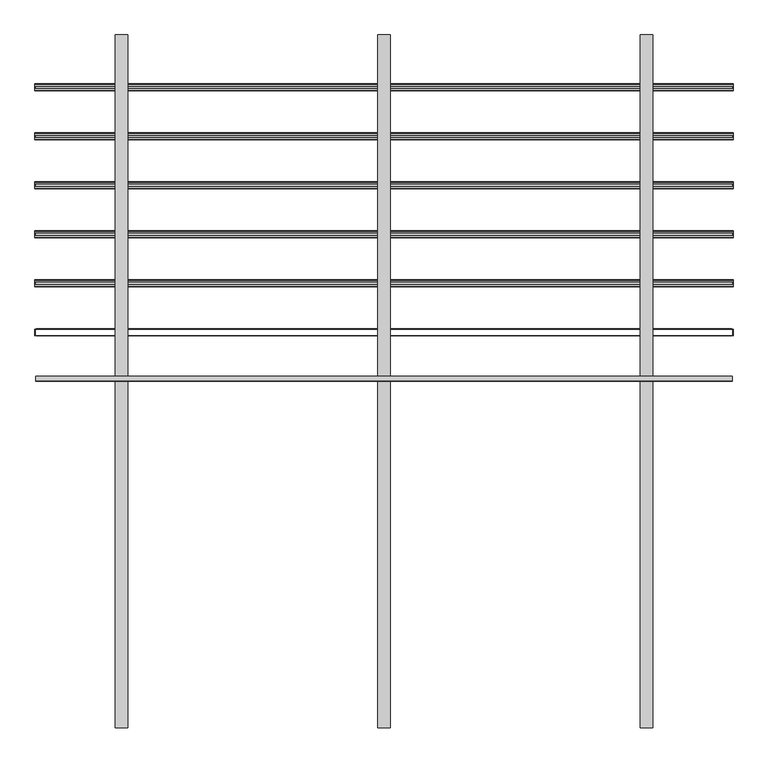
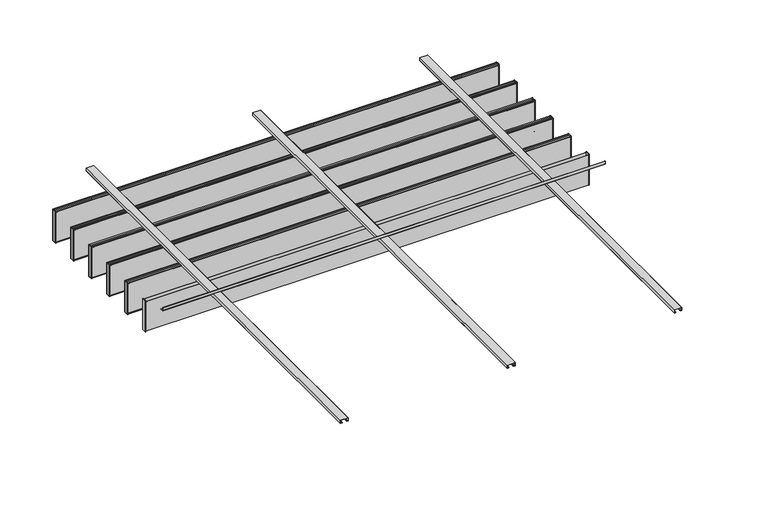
"""IFC4 building model written with IfcOpenShell, lengths in millimetres: proxy geometry, durlum_POLYLAM_KS : durlum_POLYLAM-KS/-S 40."""

from ifc_helpers import new_model, si_unit, point, frame, frame_2d, origin, place, context, project, spatial, polyline, circle_curve, trimmed, segment, composite_curve, outline, extrude, source, transform, mapped, element, save
from ifc_brep_helpers import plane_surface, cylinder_surface, advanced_brep


def generic_models_0fbfe230(model_context):
    return source(origin(), model_context, "Body", "SolidModel", [
        extrude(outline(polyline([(2027.0, 20.5), (2020.0, 20.5), (2020.0, 35.0), (2050.0, 35.0), (2050.0, -35.0), (2020.0, -35.0), (2020.0, -20.5), (2027.0, -20.5), (2027.0, -22.0), (2021.5, -22.0), (2021.5, -33.5), (2048.5, -33.5), (2048.5, 33.5), (2021.5, 33.5), (2021.5, 22.0), (2027.0, 22.0), (2027.0, 20.5)])), frame((0.0, -1980.0, 0.0), z_axis=(0.0, 1.0, 0.0), x_axis=(0.0, 0.0, 1.0)), (0.0, 0.0, 1.0), 3960.0),
        extrude(outline(polyline([(2027.0, -1479.5), (2020.0, -1479.5), (2020.0, -1465.0), (2050.0, -1465.0), (2050.0, -1535.0), (2020.0, -1535.0), (2020.0, -1520.5), (2027.0, -1520.5), (2027.0, -1522.0), (2021.5, -1522.0), (2021.5, -1533.5), (2048.5, -1533.5), (2048.5, -1466.5), (2021.5, -1466.5), (2021.5, -1478.0), (2027.0, -1478.0), (2027.0, -1479.5)])), frame((0.0, -1980.0, 0.0), z_axis=(0.0, 1.0, 0.0), x_axis=(0.0, 0.0, 1.0)), (0.0, 0.0, 1.0), 3960.0),
        extrude(outline(polyline([(2027.0, 1520.5), (2020.0, 1520.5), (2020.0, 1535.0), (2050.0, 1535.0), (2050.0, 1465.0), (2020.0, 1465.0), (2020.0, 1479.5), (2027.0, 1479.5), (2027.0, 1478.0), (2021.5, 1478.0), (2021.5, 1466.5), (2048.5, 1466.5), (2048.5, 1533.5), (2021.5, 1533.5), (2021.5, 1522.0), (2027.0, 1522.0), (2027.0, 1520.5)])), frame((0.0, -1980.0, 0.0), z_axis=(0.0, 1.0, 0.0), x_axis=(0.0, 0.0, 1.0)), (0.0, 0.0, 1.0), 3960.0),
        extrude(outline(composite_curve([segment(polyline([(2.0, 2079.9), (2.0, 2054.0)]), True, "CONTINUOUS"), segment(trimmed(circle_curve(frame_2d((4.0, 2054.0)), 2.0), [point((2.0, 2054.0))], [point((4.0, 2052.0))], True, "CARTESIAN"), True, "CONTINUOUS"), segment(polyline([(4.0, 2052.0), (29.9, 2052.0), (29.9, 2050.0), (4.0, 2050.0)]), True, "CONTINUOUS"), segment(trimmed(circle_curve(frame_2d((4.0, 2054.0)), 4.0), [point((4.0, 2050.0))], [point((0.0, 2054.0))], False, "CARTESIAN"), True, "CONTINUOUS"), segment(polyline([(0.0, 2054.0), (0.0, 2079.9), (2.0, 2079.9)]), True, "CONTINUOUS")], self_intersect=False)), frame((-1990.0, 0.0, 0.0), z_axis=(1.0, 0.0, 0.0), x_axis=(0.0, 1.0, 0.0)), (0.0, 0.0, 1.0), 3980.0),
        extrude(outline(polyline([(1986.5, 1699.0), (-1986.5, 1699.0), (-1986.5, 1700.0), (1986.5, 1700.0), (1986.5, 1699.0)])), frame((0.0, 0.0, 1699.4), z_axis=(0.0, 0.0, 1.0), x_axis=(1.0, 0.0, 0.0)), (0.0, 0.0, 1.0), 283.0),
        extrude(outline(polyline([(1986.5, 1660.0), (-1986.5, 1660.0), (-1986.5, 1661.0), (1986.5, 1661.0), (1986.5, 1660.0)])), frame((0.0, 0.0, 1699.4), z_axis=(0.0, 0.0, 1.0), x_axis=(1.0, 0.0, 0.0)), (0.0, 0.0, 1.0), 283.0),
        extrude(outline(polyline([(1993.0, 1699.0), (1995.0, 1699.0), (1995.0, 1661.0), (1993.0, 1661.0), (1993.0, 1699.0)])), frame((0.0, 0.0, 1691.9), z_axis=(0.0, 0.0, 1.0), x_axis=(1.0, 0.0, 0.0)), (0.0, 0.0, 1.0), 298.1604454),
        extrude(outline(polyline([(-1995.0, 1699.0), (-1993.0, 1699.0), (-1993.0, 1661.0), (-1995.0, 1661.0), (-1995.0, 1699.0)])), frame((0.0, 0.0, 1691.9), z_axis=(0.0, 0.0, 1.0), x_axis=(1.0, 0.0, 0.0)), (0.0, 0.0, 1.0), 298.1604454),
        advanced_brep(
        [(1995.0, 1698.0, 1990.9), (1995.0, 1688.0, 1990.9), (1995.0, 1688.0, 1990.0604454), (1995.0, 1699.0, 1990.0604454), (1995.0, 1699.0, 1691.9), (1995.0, 1661.0, 1691.9), (1995.0, 1661.0, 1989.8155735), (1995.0, 1672.0, 1989.8155735), (1995.0, 1672.0, 1990.9), (1995.0, 1662.0, 1990.9), (1995.0, 1660.0, 1988.9), (1995.0, 1660.0, 1692.9), (1995.0, 1662.0, 1690.9), (1995.0, 1698.0, 1690.9), (1995.0, 1700.0, 1692.9), (1995.0, 1700.0, 1988.9), (-1995.0, 1698.0, 1990.9), (-1995.0, 1700.0, 1988.9), (-1995.0, 1700.0, 1692.9), (-1995.0, 1698.0, 1690.9), (-1995.0, 1662.0, 1690.9), (-1995.0, 1660.0, 1692.9), (-1995.0, 1660.0, 1988.9), (-1995.0, 1662.0, 1990.9), (-1995.0, 1672.0, 1990.9), (-1995.0, 1672.0, 1989.8155735), (-1995.0, 1661.0, 1989.8155735), (-1995.0, 1661.0, 1691.9), (-1995.0, 1699.0, 1691.9), (-1995.0, 1699.0, 1990.0604454), (-1995.0, 1688.0, 1990.0604454), (-1995.0, 1688.0, 1990.9), (-1986.5, 1699.0, 1982.4), (1986.5, 1699.0, 1982.4), (1986.5, 1699.0, 1699.4), (-1986.5, 1699.0, 1699.4), (1986.5, 1661.0, 1982.4), (-1986.5, 1661.0, 1982.4), (-1986.5, 1661.0, 1699.4), (1986.5, 1661.0, 1699.4), (-1986.5, 1660.0, 1982.4), (1986.5, 1660.0, 1982.4), (1986.5, 1660.0, 1699.4), (-1986.5, 1660.0, 1699.4), (1986.5, 1700.0, 1982.4), (-1986.5, 1700.0, 1982.4), (-1986.5, 1700.0, 1699.4), (1986.5, 1700.0, 1699.4)],
        [
            (0, 1),
            (1, 2),
            (2, 3),
            (3, 4),
            (4, 5),
            (5, 6),
            (6, 7),
            (7, 8),
            (8, 9),
            (9, 10, circle_curve(frame((1995.0, 1662.0, 1988.9), z_axis=(1.0, 0.0, 0.0), x_axis=(0.0, 1.0, 0.0)), 2.0)),
            (10, 11),
            (11, 12, circle_curve(frame((1995.0, 1662.0, 1692.9), z_axis=(1.0, 0.0, 0.0), x_axis=(0.0, 1.0, 0.0)), 2.0)),
            (12, 13),
            (13, 14, circle_curve(frame((1995.0, 1698.0, 1692.9), z_axis=(1.0, 0.0, 0.0), x_axis=(0.0, 1.0, 0.0)), 2.0)),
            (14, 15),
            (15, 0, circle_curve(frame((1995.0, 1698.0, 1988.9), z_axis=(1.0, 0.0, 0.0), x_axis=(0.0, 1.0, 0.0)), 2.0)),
            (16, 17, circle_curve(frame((-1995.0, 1698.0, 1988.9), z_axis=(-1.0, 0.0, 0.0), x_axis=(0.0, 1.0, 0.0)), 2.0)),
            (17, 18),
            (18, 19, circle_curve(frame((-1995.0, 1698.0, 1692.9), z_axis=(-1.0, 0.0, 0.0), x_axis=(0.0, 1.0, 0.0)), 2.0)),
            (19, 20),
            (20, 21, circle_curve(frame((-1995.0, 1662.0, 1692.9), z_axis=(-1.0, 0.0, 0.0), x_axis=(0.0, 1.0, 0.0)), 2.0)),
            (21, 22),
            (22, 23, circle_curve(frame((-1995.0, 1662.0, 1988.9), z_axis=(-1.0, 0.0, 0.0), x_axis=(0.0, 1.0, 0.0)), 2.0)),
            (23, 24),
            (24, 25),
            (25, 26),
            (26, 27),
            (27, 28),
            (28, 29),
            (29, 30),
            (30, 31),
            (31, 16),
            (0, 16),
            (31, 1),
            (30, 2),
            (29, 3),
            (28, 4),
            (32, 33),
            (33, 34),
            (34, 35),
            (35, 32),
            (27, 5),
            (26, 6),
            (36, 37),
            (37, 38),
            (38, 39),
            (39, 36),
            (25, 7),
            (24, 8),
            (23, 9),
            (10, 22),
            (21, 11),
            (40, 41),
            (41, 42),
            (42, 43),
            (43, 40),
            (12, 20),
            (19, 13),
            (14, 18),
            (17, 15),
            (44, 45),
            (45, 46),
            (46, 47),
            (47, 44),
            (44, 33),
            (32, 45),
            (36, 41),
            (40, 37),
            (35, 46),
            (43, 38),
            (34, 47),
            (42, 39),
        ],
        [
            plane_surface(frame((1995.0, 1688.0, 1990.9), z_axis=(1.0, 0.0, 0.0), x_axis=(0.0, -1.0, 0.0))),
            plane_surface(frame((-1995.0, 1688.0, 1990.9), z_axis=(-1.0, 0.0, 0.0), x_axis=(0.0, 1.0, 0.0))),
            plane_surface(frame((1995.0, 1698.0, 1990.9), z_axis=(0.0, 0.0, 1.0), x_axis=(-1.0, 0.0, 0.0))),
            plane_surface(frame((1995.0, 1688.0, 1990.9), z_axis=(0.0, -1.0, 0.0), x_axis=(-1.0, 0.0, 0.0))),
            plane_surface(frame((1995.0, 1688.0, 1990.0604454), z_axis=(0.0, 0.0, -1.0), x_axis=(-1.0, 0.0, 0.0))),
            plane_surface(frame((1995.0, 1699.0, 1990.0604454), z_axis=(0.0, -1.0, 0.0), x_axis=(-1.0, 0.0, 0.0))),
            plane_surface(frame((1995.0, 1699.0, 1691.9), z_axis=(0.0, 0.0, 1.0), x_axis=(-1.0, 0.0, 0.0))),
            plane_surface(frame((1995.0, 1661.0, 1691.9), z_axis=(0.0, 1.0, 0.0), x_axis=(-1.0, 0.0, 0.0))),
            plane_surface(frame((1995.0, 1661.0, 1989.8155735), z_axis=(0.0, 0.0, -1.0), x_axis=(-1.0, 0.0, 0.0))),
            plane_surface(frame((1995.0, 1672.0, 1989.8155735), z_axis=(0.0, 1.0, 0.0), x_axis=(-1.0, 0.0, 0.0))),
            plane_surface(frame((1995.0, 1672.0, 1990.9), z_axis=(0.0, 0.0, 1.0), x_axis=(-1.0, 0.0, 0.0))),
            plane_surface(frame((1995.0, 1660.0, 1988.9), z_axis=(0.0, -1.0, 0.0), x_axis=(-1.0, 0.0, 0.0))),
            plane_surface(frame((1995.0, 1662.0, 1690.9), z_axis=(0.0, 0.0, -1.0), x_axis=(-1.0, 0.0, 0.0))),
            plane_surface(frame((1995.0, 1700.0, 1692.9), z_axis=(0.0, 1.0, 0.0), x_axis=(-1.0, 0.0, 0.0))),
            cylinder_surface(frame((-1995.0, 1662.0, 1988.9), z_axis=(1.0, 0.0, 0.0), x_axis=(0.0, 1.0, 0.0)), 2.0),
            cylinder_surface(frame((-1995.0, 1662.0, 1692.9), z_axis=(1.0, 0.0, 0.0), x_axis=(0.0, 1.0, 0.0)), 2.0),
            cylinder_surface(frame((-1995.0, 1698.0, 1692.9), z_axis=(1.0, 0.0, 0.0), x_axis=(0.0, 1.0, 0.0)), 2.0),
            cylinder_surface(frame((-1995.0, 1698.0, 1988.9), z_axis=(1.0, 0.0, 0.0), x_axis=(0.0, 1.0, 0.0)), 2.0),
            plane_surface(frame((1986.5, 1660.0, 1982.4), z_axis=(0.0, 0.0, -1.0), x_axis=(0.0, 1.0, 0.0))),
            plane_surface(frame((-1986.5, 1660.0, 1982.4), z_axis=(1.0, 0.0, 0.0), x_axis=(0.0, 1.0, 0.0))),
            plane_surface(frame((-1986.5, 1660.0, 1699.4), z_axis=(0.0, 0.0, 1.0), x_axis=(0.0, 1.0, 0.0))),
            plane_surface(frame((1986.5, 1660.0, 1699.4), z_axis=(-1.0, 0.0, 0.0), x_axis=(0.0, 1.0, 0.0))),
        ],
        [
            (0, [[1, 2, 3, 4, 5, 6, 7, 8, 9, 10, 11, 12, 13, 14, 15, 16]]),
            (1, [[17, 18, 19, 20, 21, 22, 23, 24, 25, 26, 27, 28, 29, 30, 31, 32]]),
            (2, [[-1, 33, -32, 34]]),
            (3, [[-2, -34, -31, 35]]),
            (4, [[-3, -35, -30, 36]]),
            (5, [[-4, -36, -29, 37], [38, 39, 40, 41]]),
            (6, [[-5, -37, -28, 42]]),
            (7, [[-6, -42, -27, 43], [44, 45, 46, 47]]),
            (8, [[-7, -43, -26, 48]]),
            (9, [[-8, -48, -25, 49]]),
            (10, [[-9, -49, -24, 50]]),
            (11, [[-11, 51, -22, 52], [53, 54, 55, 56]]),
            (12, [[-13, 57, -20, 58]]),
            (13, [[-15, 59, -18, 60], [61, 62, 63, 64]]),
            (14, [[-10, -50, -23, -51]]),
            (15, [[-12, -52, -21, -57]]),
            (16, [[-14, -58, -19, -59]]),
            (17, [[-16, -60, -17, -33]]),
            (18, [[65, -38, 66, -61]]),
            (18, [[67, -53, 68, -44]]),
            (19, [[-66, -41, 69, -62]]),
            (19, [[-68, -56, 70, -45]]),
            (20, [[-69, -40, 71, -63]]),
            (20, [[-70, -55, 72, -46]]),
            (21, [[-65, -64, -71, -39]]),
            (21, [[-67, -47, -72, -54]]),
        ],
    ),
        extrude(outline(polyline([(1986.5, 1419.0), (-1986.5, 1419.0), (-1986.5, 1420.0), (1986.5, 1420.0), (1986.5, 1419.0)])), frame((0.0, 0.0, 1699.4), z_axis=(0.0, 0.0, 1.0), x_axis=(1.0, 0.0, 0.0)), (0.0, 0.0, 1.0), 283.0),
        extrude(outline(polyline([(1986.5, 1380.0), (-1986.5, 1380.0), (-1986.5, 1381.0), (1986.5, 1381.0), (1986.5, 1380.0)])), frame((0.0, 0.0, 1699.4), z_axis=(0.0, 0.0, 1.0), x_axis=(1.0, 0.0, 0.0)), (0.0, 0.0, 1.0), 283.0),
        extrude(outline(polyline([(1993.0, 1419.0), (1995.0, 1419.0), (1995.0, 1381.0), (1993.0, 1381.0), (1993.0, 1419.0)])), frame((0.0, 0.0, 1691.9), z_axis=(0.0, 0.0, 1.0), x_axis=(1.0, 0.0, 0.0)), (0.0, 0.0, 1.0), 298.1604454),
        extrude(outline(polyline([(-1995.0, 1419.0), (-1993.0, 1419.0), (-1993.0, 1381.0), (-1995.0, 1381.0), (-1995.0, 1419.0)])), frame((0.0, 0.0, 1691.9), z_axis=(0.0, 0.0, 1.0), x_axis=(1.0, 0.0, 0.0)), (0.0, 0.0, 1.0), 298.1604454),
        advanced_brep(
        [(1995.0, 1418.0, 1990.9), (1995.0, 1408.0, 1990.9), (1995.0, 1408.0, 1990.0604454), (1995.0, 1419.0, 1990.0604454), (1995.0, 1419.0, 1691.9), (1995.0, 1381.0, 1691.9), (1995.0, 1381.0, 1989.8155735), (1995.0, 1392.0, 1989.8155735), (1995.0, 1392.0, 1990.9), (1995.0, 1382.0, 1990.9), (1995.0, 1380.0, 1988.9), (1995.0, 1380.0, 1692.9), (1995.0, 1382.0, 1690.9), (1995.0, 1418.0, 1690.9), (1995.0, 1420.0, 1692.9), (1995.0, 1420.0, 1988.9), (-1995.0, 1418.0, 1990.9), (-1995.0, 1420.0, 1988.9), (-1995.0, 1420.0, 1692.9), (-1995.0, 1418.0, 1690.9), (-1995.0, 1382.0, 1690.9), (-1995.0, 1380.0, 1692.9), (-1995.0, 1380.0, 1988.9), (-1995.0, 1382.0, 1990.9), (-1995.0, 1392.0, 1990.9), (-1995.0, 1392.0, 1989.8155735), (-1995.0, 1381.0, 1989.8155735), (-1995.0, 1381.0, 1691.9), (-1995.0, 1419.0, 1691.9), (-1995.0, 1419.0, 1990.0604454), (-1995.0, 1408.0, 1990.0604454), (-1995.0, 1408.0, 1990.9), (-1986.5, 1419.0, 1982.4), (1986.5, 1419.0, 1982.4), (1986.5, 1419.0, 1699.4), (-1986.5, 1419.0, 1699.4), (1986.5, 1381.0, 1982.4), (-1986.5, 1381.0, 1982.4), (-1986.5, 1381.0, 1699.4), (1986.5, 1381.0, 1699.4), (-1986.5, 1380.0, 1982.4), (1986.5, 1380.0, 1982.4), (1986.5, 1380.0, 1699.4), (-1986.5, 1380.0, 1699.4), (1986.5, 1420.0, 1982.4), (-1986.5, 1420.0, 1982.4), (-1986.5, 1420.0, 1699.4), (1986.5, 1420.0, 1699.4)],
        [
            (0, 1),
            (1, 2),
            (2, 3),
            (3, 4),
            (4, 5),
            (5, 6),
            (6, 7),
            (7, 8),
            (8, 9),
            (9, 10, circle_curve(frame((1995.0, 1382.0, 1988.9), z_axis=(1.0, 0.0, 0.0), x_axis=(0.0, 1.0, 0.0)), 2.0)),
            (10, 11),
            (11, 12, circle_curve(frame((1995.0, 1382.0, 1692.9), z_axis=(1.0, 0.0, 0.0), x_axis=(0.0, 1.0, 0.0)), 2.0)),
            (12, 13),
            (13, 14, circle_curve(frame((1995.0, 1418.0, 1692.9), z_axis=(1.0, 0.0, 0.0), x_axis=(0.0, 1.0, 0.0)), 2.0)),
            (14, 15),
            (15, 0, circle_curve(frame((1995.0, 1418.0, 1988.9), z_axis=(1.0, 0.0, 0.0), x_axis=(0.0, 1.0, 0.0)), 2.0)),
            (16, 17, circle_curve(frame((-1995.0, 1418.0, 1988.9), z_axis=(-1.0, 0.0, 0.0), x_axis=(0.0, 1.0, 0.0)), 2.0)),
            (17, 18),
            (18, 19, circle_curve(frame((-1995.0, 1418.0, 1692.9), z_axis=(-1.0, 0.0, 0.0), x_axis=(0.0, 1.0, 0.0)), 2.0)),
            (19, 20),
            (20, 21, circle_curve(frame((-1995.0, 1382.0, 1692.9), z_axis=(-1.0, 0.0, 0.0), x_axis=(0.0, 1.0, 0.0)), 2.0)),
            (21, 22),
            (22, 23, circle_curve(frame((-1995.0, 1382.0, 1988.9), z_axis=(-1.0, 0.0, 0.0), x_axis=(0.0, 1.0, 0.0)), 2.0)),
            (23, 24),
            (24, 25),
            (25, 26),
            (26, 27),
            (27, 28),
            (28, 29),
            (29, 30),
            (30, 31),
            (31, 16),
            (0, 16),
            (31, 1),
            (30, 2),
            (29, 3),
            (28, 4),
            (32, 33),
            (33, 34),
            (34, 35),
            (35, 32),
            (27, 5),
            (26, 6),
            (36, 37),
            (37, 38),
            (38, 39),
            (39, 36),
            (25, 7),
            (24, 8),
            (23, 9),
            (10, 22),
            (21, 11),
            (40, 41),
            (41, 42),
            (42, 43),
            (43, 40),
            (12, 20),
            (19, 13),
            (14, 18),
            (17, 15),
            (44, 45),
            (45, 46),
            (46, 47),
            (47, 44),
            (44, 33),
            (32, 45),
            (36, 41),
            (40, 37),
            (35, 46),
            (43, 38),
            (34, 47),
            (42, 39),
        ],
        [
            plane_surface(frame((1995.0, 1408.0, 1990.9), z_axis=(1.0, 0.0, 0.0), x_axis=(0.0, -1.0, 0.0))),
            plane_surface(frame((-1995.0, 1408.0, 1990.9), z_axis=(-1.0, 0.0, 0.0), x_axis=(0.0, 1.0, 0.0))),
            plane_surface(frame((1995.0, 1418.0, 1990.9), z_axis=(0.0, 0.0, 1.0), x_axis=(-1.0, 0.0, 0.0))),
            plane_surface(frame((1995.0, 1408.0, 1990.9), z_axis=(0.0, -1.0, 0.0), x_axis=(-1.0, 0.0, 0.0))),
            plane_surface(frame((1995.0, 1408.0, 1990.0604454), z_axis=(0.0, 0.0, -1.0), x_axis=(-1.0, 0.0, 0.0))),
            plane_surface(frame((1995.0, 1419.0, 1990.0604454), z_axis=(0.0, -1.0, 0.0), x_axis=(-1.0, 0.0, 0.0))),
            plane_surface(frame((1995.0, 1419.0, 1691.9), z_axis=(0.0, 0.0, 1.0), x_axis=(-1.0, 0.0, 0.0))),
            plane_surface(frame((1995.0, 1381.0, 1691.9), z_axis=(0.0, 1.0, 0.0), x_axis=(-1.0, 0.0, 0.0))),
            plane_surface(frame((1995.0, 1381.0, 1989.8155735), z_axis=(0.0, 0.0, -1.0), x_axis=(-1.0, 0.0, 0.0))),
            plane_surface(frame((1995.0, 1392.0, 1989.8155735), z_axis=(0.0, 1.0, 0.0), x_axis=(-1.0, 0.0, 0.0))),
            plane_surface(frame((1995.0, 1392.0, 1990.9), z_axis=(0.0, 0.0, 1.0), x_axis=(-1.0, 0.0, 0.0))),
            plane_surface(frame((1995.0, 1380.0, 1988.9), z_axis=(0.0, -1.0, 0.0), x_axis=(-1.0, 0.0, 0.0))),
            plane_surface(frame((1995.0, 1382.0, 1690.9), z_axis=(0.0, 0.0, -1.0), x_axis=(-1.0, 0.0, 0.0))),
            plane_surface(frame((1995.0, 1420.0, 1692.9), z_axis=(0.0, 1.0, 0.0), x_axis=(-1.0, 0.0, 0.0))),
            cylinder_surface(frame((-1995.0, 1382.0, 1988.9), z_axis=(1.0, 0.0, 0.0), x_axis=(0.0, 1.0, 0.0)), 2.0),
            cylinder_surface(frame((-1995.0, 1382.0, 1692.9), z_axis=(1.0, 0.0, 0.0), x_axis=(0.0, 1.0, 0.0)), 2.0),
            cylinder_surface(frame((-1995.0, 1418.0, 1692.9), z_axis=(1.0, 0.0, 0.0), x_axis=(0.0, 1.0, 0.0)), 2.0),
            cylinder_surface(frame((-1995.0, 1418.0, 1988.9), z_axis=(1.0, 0.0, 0.0), x_axis=(0.0, 1.0, 0.0)), 2.0),
            plane_surface(frame((1986.5, 1380.0, 1982.4), z_axis=(0.0, 0.0, -1.0), x_axis=(0.0, 1.0, 0.0))),
            plane_surface(frame((-1986.5, 1380.0, 1982.4), z_axis=(1.0, 0.0, 0.0), x_axis=(0.0, 1.0, 0.0))),
            plane_surface(frame((-1986.5, 1380.0, 1699.4), z_axis=(0.0, 0.0, 1.0), x_axis=(0.0, 1.0, 0.0))),
            plane_surface(frame((1986.5, 1380.0, 1699.4), z_axis=(-1.0, 0.0, 0.0), x_axis=(0.0, 1.0, 0.0))),
        ],
        [
            (0, [[1, 2, 3, 4, 5, 6, 7, 8, 9, 10, 11, 12, 13, 14, 15, 16]]),
            (1, [[17, 18, 19, 20, 21, 22, 23, 24, 25, 26, 27, 28, 29, 30, 31, 32]]),
            (2, [[-1, 33, -32, 34]]),
            (3, [[-2, -34, -31, 35]]),
            (4, [[-3, -35, -30, 36]]),
            (5, [[-4, -36, -29, 37], [38, 39, 40, 41]]),
            (6, [[-5, -37, -28, 42]]),
            (7, [[-6, -42, -27, 43], [44, 45, 46, 47]]),
            (8, [[-7, -43, -26, 48]]),
            (9, [[-8, -48, -25, 49]]),
            (10, [[-9, -49, -24, 50]]),
            (11, [[-11, 51, -22, 52], [53, 54, 55, 56]]),
            (12, [[-13, 57, -20, 58]]),
            (13, [[-15, 59, -18, 60], [61, 62, 63, 64]]),
            (14, [[-10, -50, -23, -51]]),
            (15, [[-12, -52, -21, -57]]),
            (16, [[-14, -58, -19, -59]]),
            (17, [[-16, -60, -17, -33]]),
            (18, [[65, -38, 66, -61]]),
            (18, [[67, -53, 68, -44]]),
            (19, [[-66, -41, 69, -62]]),
            (19, [[-68, -56, 70, -45]]),
            (20, [[-69, -40, 71, -63]]),
            (20, [[-70, -55, 72, -46]]),
            (21, [[-65, -64, -71, -39]]),
            (21, [[-67, -47, -72, -54]]),
        ],
    ),
        extrude(outline(polyline([(1986.5, 1139.0), (-1986.5, 1139.0), (-1986.5, 1140.0), (1986.5, 1140.0), (1986.5, 1139.0)])), frame((0.0, 0.0, 1699.4), z_axis=(0.0, 0.0, 1.0), x_axis=(1.0, 0.0, 0.0)), (0.0, 0.0, 1.0), 283.0),
        extrude(outline(polyline([(1986.5, 1100.0), (-1986.5, 1100.0), (-1986.5, 1101.0), (1986.5, 1101.0), (1986.5, 1100.0)])), frame((0.0, 0.0, 1699.4), z_axis=(0.0, 0.0, 1.0), x_axis=(1.0, 0.0, 0.0)), (0.0, 0.0, 1.0), 283.0),
        extrude(outline(polyline([(1993.0, 1139.0), (1995.0, 1139.0), (1995.0, 1101.0), (1993.0, 1101.0), (1993.0, 1139.0)])), frame((0.0, 0.0, 1691.9), z_axis=(0.0, 0.0, 1.0), x_axis=(1.0, 0.0, 0.0)), (0.0, 0.0, 1.0), 298.1604454),
        extrude(outline(polyline([(-1995.0, 1139.0), (-1993.0, 1139.0), (-1993.0, 1101.0), (-1995.0, 1101.0), (-1995.0, 1139.0)])), frame((0.0, 0.0, 1691.9), z_axis=(0.0, 0.0, 1.0), x_axis=(1.0, 0.0, 0.0)), (0.0, 0.0, 1.0), 298.1604454),
        advanced_brep(
        [(1995.0, 1138.0, 1990.9), (1995.0, 1128.0, 1990.9), (1995.0, 1128.0, 1990.0604454), (1995.0, 1139.0, 1990.0604454), (1995.0, 1139.0, 1691.9), (1995.0, 1101.0, 1691.9), (1995.0, 1101.0, 1989.8155735), (1995.0, 1112.0, 1989.8155735), (1995.0, 1112.0, 1990.9), (1995.0, 1102.0, 1990.9), (1995.0, 1100.0, 1988.9), (1995.0, 1100.0, 1692.9), (1995.0, 1102.0, 1690.9), (1995.0, 1138.0, 1690.9), (1995.0, 1140.0, 1692.9), (1995.0, 1140.0, 1988.9), (-1995.0, 1138.0, 1990.9), (-1995.0, 1140.0, 1988.9), (-1995.0, 1140.0, 1692.9), (-1995.0, 1138.0, 1690.9), (-1995.0, 1102.0, 1690.9), (-1995.0, 1100.0, 1692.9), (-1995.0, 1100.0, 1988.9), (-1995.0, 1102.0, 1990.9), (-1995.0, 1112.0, 1990.9), (-1995.0, 1112.0, 1989.8155735), (-1995.0, 1101.0, 1989.8155735), (-1995.0, 1101.0, 1691.9), (-1995.0, 1139.0, 1691.9), (-1995.0, 1139.0, 1990.0604454), (-1995.0, 1128.0, 1990.0604454), (-1995.0, 1128.0, 1990.9), (-1986.5, 1139.0, 1982.4), (1986.5, 1139.0, 1982.4), (1986.5, 1139.0, 1699.4), (-1986.5, 1139.0, 1699.4), (1986.5, 1101.0, 1982.4), (-1986.5, 1101.0, 1982.4), (-1986.5, 1101.0, 1699.4), (1986.5, 1101.0, 1699.4), (-1986.5, 1100.0, 1982.4), (1986.5, 1100.0, 1982.4), (1986.5, 1100.0, 1699.4), (-1986.5, 1100.0, 1699.4), (1986.5, 1140.0, 1982.4), (-1986.5, 1140.0, 1982.4), (-1986.5, 1140.0, 1699.4), (1986.5, 1140.0, 1699.4)],
        [
            (0, 1),
            (1, 2),
            (2, 3),
            (3, 4),
            (4, 5),
            (5, 6),
            (6, 7),
            (7, 8),
            (8, 9),
            (9, 10, circle_curve(frame((1995.0, 1102.0, 1988.9), z_axis=(1.0, 0.0, 0.0), x_axis=(0.0, 1.0, 0.0)), 2.0)),
            (10, 11),
            (11, 12, circle_curve(frame((1995.0, 1102.0, 1692.9), z_axis=(1.0, 0.0, 0.0), x_axis=(0.0, 1.0, 0.0)), 2.0)),
            (12, 13),
            (13, 14, circle_curve(frame((1995.0, 1138.0, 1692.9), z_axis=(1.0, 0.0, 0.0), x_axis=(0.0, 1.0, 0.0)), 2.0)),
            (14, 15),
            (15, 0, circle_curve(frame((1995.0, 1138.0, 1988.9), z_axis=(1.0, 0.0, 0.0), x_axis=(0.0, 1.0, 0.0)), 2.0)),
            (16, 17, circle_curve(frame((-1995.0, 1138.0, 1988.9), z_axis=(-1.0, 0.0, 0.0), x_axis=(0.0, 1.0, 0.0)), 2.0)),
            (17, 18),
            (18, 19, circle_curve(frame((-1995.0, 1138.0, 1692.9), z_axis=(-1.0, 0.0, 0.0), x_axis=(0.0, 1.0, 0.0)), 2.0)),
            (19, 20),
            (20, 21, circle_curve(frame((-1995.0, 1102.0, 1692.9), z_axis=(-1.0, 0.0, 0.0), x_axis=(0.0, 1.0, 0.0)), 2.0)),
            (21, 22),
            (22, 23, circle_curve(frame((-1995.0, 1102.0, 1988.9), z_axis=(-1.0, 0.0, 0.0), x_axis=(0.0, 1.0, 0.0)), 2.0)),
            (23, 24),
            (24, 25),
            (25, 26),
            (26, 27),
            (27, 28),
            (28, 29),
            (29, 30),
            (30, 31),
            (31, 16),
            (0, 16),
            (31, 1),
            (30, 2),
            (29, 3),
            (28, 4),
            (32, 33),
            (33, 34),
            (34, 35),
            (35, 32),
            (27, 5),
            (26, 6),
            (36, 37),
            (37, 38),
            (38, 39),
            (39, 36),
            (25, 7),
            (24, 8),
            (23, 9),
            (10, 22),
            (21, 11),
            (40, 41),
            (41, 42),
            (42, 43),
            (43, 40),
            (12, 20),
            (19, 13),
            (14, 18),
            (17, 15),
            (44, 45),
            (45, 46),
            (46, 47),
            (47, 44),
            (44, 33),
            (32, 45),
            (36, 41),
            (40, 37),
            (35, 46),
            (43, 38),
            (34, 47),
            (42, 39),
        ],
        [
            plane_surface(frame((1995.0, 1128.0, 1990.9), z_axis=(1.0, 0.0, 0.0), x_axis=(0.0, -1.0, 0.0))),
            plane_surface(frame((-1995.0, 1128.0, 1990.9), z_axis=(-1.0, 0.0, 0.0), x_axis=(0.0, 1.0, 0.0))),
            plane_surface(frame((1995.0, 1138.0, 1990.9), z_axis=(0.0, 0.0, 1.0), x_axis=(-1.0, 0.0, 0.0))),
            plane_surface(frame((1995.0, 1128.0, 1990.9), z_axis=(0.0, -1.0, 0.0), x_axis=(-1.0, 0.0, 0.0))),
            plane_surface(frame((1995.0, 1128.0, 1990.0604454), z_axis=(0.0, 0.0, -1.0), x_axis=(-1.0, 0.0, 0.0))),
            plane_surface(frame((1995.0, 1139.0, 1990.0604454), z_axis=(0.0, -1.0, 0.0), x_axis=(-1.0, 0.0, 0.0))),
            plane_surface(frame((1995.0, 1139.0, 1691.9), z_axis=(0.0, 0.0, 1.0), x_axis=(-1.0, 0.0, 0.0))),
            plane_surface(frame((1995.0, 1101.0, 1691.9), z_axis=(0.0, 1.0, 0.0), x_axis=(-1.0, 0.0, 0.0))),
            plane_surface(frame((1995.0, 1101.0, 1989.8155735), z_axis=(0.0, 0.0, -1.0), x_axis=(-1.0, 0.0, 0.0))),
            plane_surface(frame((1995.0, 1112.0, 1989.8155735), z_axis=(0.0, 1.0, 0.0), x_axis=(-1.0, 0.0, 0.0))),
            plane_surface(frame((1995.0, 1112.0, 1990.9), z_axis=(0.0, 0.0, 1.0), x_axis=(-1.0, 0.0, 0.0))),
            plane_surface(frame((1995.0, 1100.0, 1988.9), z_axis=(0.0, -1.0, 0.0), x_axis=(-1.0, 0.0, 0.0))),
            plane_surface(frame((1995.0, 1102.0, 1690.9), z_axis=(0.0, 0.0, -1.0), x_axis=(-1.0, 0.0, 0.0))),
            plane_surface(frame((1995.0, 1140.0, 1692.9), z_axis=(0.0, 1.0, 0.0), x_axis=(-1.0, 0.0, 0.0))),
            cylinder_surface(frame((-1995.0, 1102.0, 1988.9), z_axis=(1.0, 0.0, 0.0), x_axis=(0.0, 1.0, 0.0)), 2.0),
            cylinder_surface(frame((-1995.0, 1102.0, 1692.9), z_axis=(1.0, 0.0, 0.0), x_axis=(0.0, 1.0, 0.0)), 2.0),
            cylinder_surface(frame((-1995.0, 1138.0, 1692.9), z_axis=(1.0, 0.0, 0.0), x_axis=(0.0, 1.0, 0.0)), 2.0),
            cylinder_surface(frame((-1995.0, 1138.0, 1988.9), z_axis=(1.0, 0.0, 0.0), x_axis=(0.0, 1.0, 0.0)), 2.0),
            plane_surface(frame((1986.5, 1100.0, 1982.4), z_axis=(0.0, 0.0, -1.0), x_axis=(0.0, 1.0, 0.0))),
            plane_surface(frame((-1986.5, 1100.0, 1982.4), z_axis=(1.0, 0.0, 0.0), x_axis=(0.0, 1.0, 0.0))),
            plane_surface(frame((-1986.5, 1100.0, 1699.4), z_axis=(0.0, 0.0, 1.0), x_axis=(0.0, 1.0, 0.0))),
            plane_surface(frame((1986.5, 1100.0, 1699.4), z_axis=(-1.0, 0.0, 0.0), x_axis=(0.0, 1.0, 0.0))),
        ],
        [
            (0, [[1, 2, 3, 4, 5, 6, 7, 8, 9, 10, 11, 12, 13, 14, 15, 16]]),
            (1, [[17, 18, 19, 20, 21, 22, 23, 24, 25, 26, 27, 28, 29, 30, 31, 32]]),
            (2, [[-1, 33, -32, 34]]),
            (3, [[-2, -34, -31, 35]]),
            (4, [[-3, -35, -30, 36]]),
            (5, [[-4, -36, -29, 37], [38, 39, 40, 41]]),
            (6, [[-5, -37, -28, 42]]),
            (7, [[-6, -42, -27, 43], [44, 45, 46, 47]]),
            (8, [[-7, -43, -26, 48]]),
            (9, [[-8, -48, -25, 49]]),
            (10, [[-9, -49, -24, 50]]),
            (11, [[-11, 51, -22, 52], [53, 54, 55, 56]]),
            (12, [[-13, 57, -20, 58]]),
            (13, [[-15, 59, -18, 60], [61, 62, 63, 64]]),
            (14, [[-10, -50, -23, -51]]),
            (15, [[-12, -52, -21, -57]]),
            (16, [[-14, -58, -19, -59]]),
            (17, [[-16, -60, -17, -33]]),
            (18, [[65, -38, 66, -61]]),
            (18, [[67, -53, 68, -44]]),
            (19, [[-66, -41, 69, -62]]),
            (19, [[-68, -56, 70, -45]]),
            (20, [[-69, -40, 71, -63]]),
            (20, [[-70, -55, 72, -46]]),
            (21, [[-65, -64, -71, -39]]),
            (21, [[-67, -47, -72, -54]]),
        ],
    ),
        extrude(outline(polyline([(1986.5, 859.0), (-1986.5, 859.0), (-1986.5, 860.0), (1986.5, 860.0), (1986.5, 859.0)])), frame((0.0, 0.0, 1699.4), z_axis=(0.0, 0.0, 1.0), x_axis=(1.0, 0.0, 0.0)), (0.0, 0.0, 1.0), 283.0),
        extrude(outline(polyline([(1986.5, 820.0), (-1986.5, 820.0), (-1986.5, 821.0), (1986.5, 821.0), (1986.5, 820.0)])), frame((0.0, 0.0, 1699.4), z_axis=(0.0, 0.0, 1.0), x_axis=(1.0, 0.0, 0.0)), (0.0, 0.0, 1.0), 283.0),
        extrude(outline(polyline([(1993.0, 859.0), (1995.0, 859.0), (1995.0, 821.0), (1993.0, 821.0), (1993.0, 859.0)])), frame((0.0, 0.0, 1691.9), z_axis=(0.0, 0.0, 1.0), x_axis=(1.0, 0.0, 0.0)), (0.0, 0.0, 1.0), 298.1604454),
        extrude(outline(polyline([(-1995.0, 859.0), (-1993.0, 859.0), (-1993.0, 821.0), (-1995.0, 821.0), (-1995.0, 859.0)])), frame((0.0, 0.0, 1691.9), z_axis=(0.0, 0.0, 1.0), x_axis=(1.0, 0.0, 0.0)), (0.0, 0.0, 1.0), 298.1604454),
        advanced_brep(
        [(1995.0, 858.0, 1990.9), (1995.0, 848.0, 1990.9), (1995.0, 848.0, 1990.0604454), (1995.0, 859.0, 1990.0604454), (1995.0, 859.0, 1691.9), (1995.0, 821.0, 1691.9), (1995.0, 821.0, 1989.8155735), (1995.0, 832.0, 1989.8155735), (1995.0, 832.0, 1990.9), (1995.0, 822.0, 1990.9), (1995.0, 820.0, 1988.9), (1995.0, 820.0, 1692.9), (1995.0, 822.0, 1690.9), (1995.0, 858.0, 1690.9), (1995.0, 860.0, 1692.9), (1995.0, 860.0, 1988.9), (-1995.0, 858.0, 1990.9), (-1995.0, 860.0, 1988.9), (-1995.0, 860.0, 1692.9), (-1995.0, 858.0, 1690.9), (-1995.0, 822.0, 1690.9), (-1995.0, 820.0, 1692.9), (-1995.0, 820.0, 1988.9), (-1995.0, 822.0, 1990.9), (-1995.0, 832.0, 1990.9), (-1995.0, 832.0, 1989.8155735), (-1995.0, 821.0, 1989.8155735), (-1995.0, 821.0, 1691.9), (-1995.0, 859.0, 1691.9), (-1995.0, 859.0, 1990.0604454), (-1995.0, 848.0, 1990.0604454), (-1995.0, 848.0, 1990.9), (-1986.5, 859.0, 1982.4), (1986.5, 859.0, 1982.4), (1986.5, 859.0, 1699.4), (-1986.5, 859.0, 1699.4), (1986.5, 821.0, 1982.4), (-1986.5, 821.0, 1982.4), (-1986.5, 821.0, 1699.4), (1986.5, 821.0, 1699.4), (-1986.5, 820.0, 1982.4), (1986.5, 820.0, 1982.4), (1986.5, 820.0, 1699.4), (-1986.5, 820.0, 1699.4), (1986.5, 860.0, 1982.4), (-1986.5, 860.0, 1982.4), (-1986.5, 860.0, 1699.4), (1986.5, 860.0, 1699.4)],
        [
            (0, 1),
            (1, 2),
            (2, 3),
            (3, 4),
            (4, 5),
            (5, 6),
            (6, 7),
            (7, 8),
            (8, 9),
            (9, 10, circle_curve(frame((1995.0, 822.0, 1988.9), z_axis=(1.0, 0.0, 0.0), x_axis=(0.0, 1.0, 0.0)), 2.0)),
            (10, 11),
            (11, 12, circle_curve(frame((1995.0, 822.0, 1692.9), z_axis=(1.0, 0.0, 0.0), x_axis=(0.0, 1.0, 0.0)), 2.0)),
            (12, 13),
            (13, 14, circle_curve(frame((1995.0, 858.0, 1692.9), z_axis=(1.0, 0.0, 0.0), x_axis=(0.0, 1.0, 0.0)), 2.0)),
            (14, 15),
            (15, 0, circle_curve(frame((1995.0, 858.0, 1988.9), z_axis=(1.0, 0.0, 0.0), x_axis=(0.0, 1.0, 0.0)), 2.0)),
            (16, 17, circle_curve(frame((-1995.0, 858.0, 1988.9), z_axis=(-1.0, 0.0, 0.0), x_axis=(0.0, 1.0, 0.0)), 2.0)),
            (17, 18),
            (18, 19, circle_curve(frame((-1995.0, 858.0, 1692.9), z_axis=(-1.0, 0.0, 0.0), x_axis=(0.0, 1.0, 0.0)), 2.0)),
            (19, 20),
            (20, 21, circle_curve(frame((-1995.0, 822.0, 1692.9), z_axis=(-1.0, 0.0, 0.0), x_axis=(0.0, 1.0, 0.0)), 2.0)),
            (21, 22),
            (22, 23, circle_curve(frame((-1995.0, 822.0, 1988.9), z_axis=(-1.0, 0.0, 0.0), x_axis=(0.0, 1.0, 0.0)), 2.0)),
            (23, 24),
            (24, 25),
            (25, 26),
            (26, 27),
            (27, 28),
            (28, 29),
            (29, 30),
            (30, 31),
            (31, 16),
            (0, 16),
            (31, 1),
            (30, 2),
            (29, 3),
            (28, 4),
            (32, 33),
            (33, 34),
            (34, 35),
            (35, 32),
            (27, 5),
            (26, 6),
            (36, 37),
            (37, 38),
            (38, 39),
            (39, 36),
            (25, 7),
            (24, 8),
            (23, 9),
            (10, 22),
            (21, 11),
            (40, 41),
            (41, 42),
            (42, 43),
            (43, 40),
            (12, 20),
            (19, 13),
            (14, 18),
            (17, 15),
            (44, 45),
            (45, 46),
            (46, 47),
            (47, 44),
            (44, 33),
            (32, 45),
            (36, 41),
            (40, 37),
            (35, 46),
            (43, 38),
            (34, 47),
            (42, 39),
        ],
        [
            plane_surface(frame((1995.0, 848.0, 1990.9), z_axis=(1.0, 0.0, 0.0), x_axis=(0.0, -1.0, 0.0))),
            plane_surface(frame((-1995.0, 848.0, 1990.9), z_axis=(-1.0, 0.0, 0.0), x_axis=(0.0, 1.0, 0.0))),
            plane_surface(frame((1995.0, 858.0, 1990.9), z_axis=(0.0, 0.0, 1.0), x_axis=(-1.0, 0.0, 0.0))),
            plane_surface(frame((1995.0, 848.0, 1990.9), z_axis=(0.0, -1.0, 0.0), x_axis=(-1.0, 0.0, 0.0))),
            plane_surface(frame((1995.0, 848.0, 1990.0604454), z_axis=(0.0, 0.0, -1.0), x_axis=(-1.0, 0.0, 0.0))),
            plane_surface(frame((1995.0, 859.0, 1990.0604454), z_axis=(0.0, -1.0, 0.0), x_axis=(-1.0, 0.0, 0.0))),
            plane_surface(frame((1995.0, 859.0, 1691.9), z_axis=(0.0, 0.0, 1.0), x_axis=(-1.0, 0.0, 0.0))),
            plane_surface(frame((1995.0, 821.0, 1691.9), z_axis=(0.0, 1.0, 0.0), x_axis=(-1.0, 0.0, 0.0))),
            plane_surface(frame((1995.0, 821.0, 1989.8155735), z_axis=(0.0, 0.0, -1.0), x_axis=(-1.0, 0.0, 0.0))),
            plane_surface(frame((1995.0, 832.0, 1989.8155735), z_axis=(0.0, 1.0, 0.0), x_axis=(-1.0, 0.0, 0.0))),
            plane_surface(frame((1995.0, 832.0, 1990.9), z_axis=(0.0, 0.0, 1.0), x_axis=(-1.0, 0.0, 0.0))),
            plane_surface(frame((1995.0, 820.0, 1988.9), z_axis=(0.0, -1.0, 0.0), x_axis=(-1.0, 0.0, 0.0))),
            plane_surface(frame((1995.0, 822.0, 1690.9), z_axis=(0.0, 0.0, -1.0), x_axis=(-1.0, 0.0, 0.0))),
            plane_surface(frame((1995.0, 860.0, 1692.9), z_axis=(0.0, 1.0, 0.0), x_axis=(-1.0, 0.0, 0.0))),
            cylinder_surface(frame((-1995.0, 822.0, 1988.9), z_axis=(1.0, 0.0, 0.0), x_axis=(0.0, 1.0, 0.0)), 2.0),
            cylinder_surface(frame((-1995.0, 822.0, 1692.9), z_axis=(1.0, 0.0, 0.0), x_axis=(0.0, 1.0, 0.0)), 2.0),
            cylinder_surface(frame((-1995.0, 858.0, 1692.9), z_axis=(1.0, 0.0, 0.0), x_axis=(0.0, 1.0, 0.0)), 2.0),
            cylinder_surface(frame((-1995.0, 858.0, 1988.9), z_axis=(1.0, 0.0, 0.0), x_axis=(0.0, 1.0, 0.0)), 2.0),
            plane_surface(frame((1986.5, 820.0, 1982.4), z_axis=(0.0, 0.0, -1.0), x_axis=(0.0, 1.0, 0.0))),
            plane_surface(frame((-1986.5, 820.0, 1982.4), z_axis=(1.0, 0.0, 0.0), x_axis=(0.0, 1.0, 0.0))),
            plane_surface(frame((-1986.5, 820.0, 1699.4), z_axis=(0.0, 0.0, 1.0), x_axis=(0.0, 1.0, 0.0))),
            plane_surface(frame((1986.5, 820.0, 1699.4), z_axis=(-1.0, 0.0, 0.0), x_axis=(0.0, 1.0, 0.0))),
        ],
        [
            (0, [[1, 2, 3, 4, 5, 6, 7, 8, 9, 10, 11, 12, 13, 14, 15, 16]]),
            (1, [[17, 18, 19, 20, 21, 22, 23, 24, 25, 26, 27, 28, 29, 30, 31, 32]]),
            (2, [[-1, 33, -32, 34]]),
            (3, [[-2, -34, -31, 35]]),
            (4, [[-3, -35, -30, 36]]),
            (5, [[-4, -36, -29, 37], [38, 39, 40, 41]]),
            (6, [[-5, -37, -28, 42]]),
            (7, [[-6, -42, -27, 43], [44, 45, 46, 47]]),
            (8, [[-7, -43, -26, 48]]),
            (9, [[-8, -48, -25, 49]]),
            (10, [[-9, -49, -24, 50]]),
            (11, [[-11, 51, -22, 52], [53, 54, 55, 56]]),
            (12, [[-13, 57, -20, 58]]),
            (13, [[-15, 59, -18, 60], [61, 62, 63, 64]]),
            (14, [[-10, -50, -23, -51]]),
            (15, [[-12, -52, -21, -57]]),
            (16, [[-14, -58, -19, -59]]),
            (17, [[-16, -60, -17, -33]]),
            (18, [[65, -38, 66, -61]]),
            (18, [[67, -53, 68, -44]]),
            (19, [[-66, -41, 69, -62]]),
            (19, [[-68, -56, 70, -45]]),
            (20, [[-69, -40, 71, -63]]),
            (20, [[-70, -55, 72, -46]]),
            (21, [[-65, -64, -71, -39]]),
            (21, [[-67, -47, -72, -54]]),
        ],
    ),
        extrude(outline(polyline([(1986.5, 579.0), (-1986.5, 579.0), (-1986.5, 580.0), (1986.5, 580.0), (1986.5, 579.0)])), frame((0.0, 0.0, 1699.4), z_axis=(0.0, 0.0, 1.0), x_axis=(1.0, 0.0, 0.0)), (0.0, 0.0, 1.0), 283.0),
        extrude(outline(polyline([(1986.5, 540.0), (-1986.5, 540.0), (-1986.5, 541.0), (1986.5, 541.0), (1986.5, 540.0)])), frame((0.0, 0.0, 1699.4), z_axis=(0.0, 0.0, 1.0), x_axis=(1.0, 0.0, 0.0)), (0.0, 0.0, 1.0), 283.0),
        extrude(outline(polyline([(1993.0, 579.0), (1995.0, 579.0), (1995.0, 541.0), (1993.0, 541.0), (1993.0, 579.0)])), frame((0.0, 0.0, 1691.9), z_axis=(0.0, 0.0, 1.0), x_axis=(1.0, 0.0, 0.0)), (0.0, 0.0, 1.0), 298.1604454),
        extrude(outline(polyline([(-1995.0, 579.0), (-1993.0, 579.0), (-1993.0, 541.0), (-1995.0, 541.0), (-1995.0, 579.0)])), frame((0.0, 0.0, 1691.9), z_axis=(0.0, 0.0, 1.0), x_axis=(1.0, 0.0, 0.0)), (0.0, 0.0, 1.0), 298.1604454),
        advanced_brep(
        [(1995.0, 578.0, 1990.9), (1995.0, 568.0, 1990.9), (1995.0, 568.0, 1990.0604454), (1995.0, 579.0, 1990.0604454), (1995.0, 579.0, 1691.9), (1995.0, 541.0, 1691.9), (1995.0, 541.0, 1989.8155735), (1995.0, 552.0, 1989.8155735), (1995.0, 552.0, 1990.9), (1995.0, 542.0, 1990.9), (1995.0, 540.0, 1988.9), (1995.0, 540.0, 1692.9), (1995.0, 542.0, 1690.9), (1995.0, 578.0, 1690.9), (1995.0, 580.0, 1692.9), (1995.0, 580.0, 1988.9), (-1995.0, 578.0, 1990.9), (-1995.0, 580.0, 1988.9), (-1995.0, 580.0, 1692.9), (-1995.0, 578.0, 1690.9), (-1995.0, 542.0, 1690.9), (-1995.0, 540.0, 1692.9), (-1995.0, 540.0, 1988.9), (-1995.0, 542.0, 1990.9), (-1995.0, 552.0, 1990.9), (-1995.0, 552.0, 1989.8155735), (-1995.0, 541.0, 1989.8155735), (-1995.0, 541.0, 1691.9), (-1995.0, 579.0, 1691.9), (-1995.0, 579.0, 1990.0604454), (-1995.0, 568.0, 1990.0604454), (-1995.0, 568.0, 1990.9), (-1986.5, 579.0, 1982.4), (1986.5, 579.0, 1982.4), (1986.5, 579.0, 1699.4), (-1986.5, 579.0, 1699.4), (1986.5, 541.0, 1982.4), (-1986.5, 541.0, 1982.4), (-1986.5, 541.0, 1699.4), (1986.5, 541.0, 1699.4), (-1986.5, 540.0, 1982.4), (1986.5, 540.0, 1982.4), (1986.5, 540.0, 1699.4), (-1986.5, 540.0, 1699.4), (1986.5, 580.0, 1982.4), (-1986.5, 580.0, 1982.4), (-1986.5, 580.0, 1699.4), (1986.5, 580.0, 1699.4)],
        [
            (0, 1),
            (1, 2),
            (2, 3),
            (3, 4),
            (4, 5),
            (5, 6),
            (6, 7),
            (7, 8),
            (8, 9),
            (9, 10, circle_curve(frame((1995.0, 542.0, 1988.9), z_axis=(1.0, 0.0, 0.0), x_axis=(0.0, 1.0, 0.0)), 2.0)),
            (10, 11),
            (11, 12, circle_curve(frame((1995.0, 542.0, 1692.9), z_axis=(1.0, 0.0, 0.0), x_axis=(0.0, 1.0, 0.0)), 2.0)),
            (12, 13),
            (13, 14, circle_curve(frame((1995.0, 578.0, 1692.9), z_axis=(1.0, 0.0, 0.0), x_axis=(0.0, 1.0, 0.0)), 2.0)),
            (14, 15),
            (15, 0, circle_curve(frame((1995.0, 578.0, 1988.9), z_axis=(1.0, 0.0, 0.0), x_axis=(0.0, 1.0, 0.0)), 2.0)),
            (16, 17, circle_curve(frame((-1995.0, 578.0, 1988.9), z_axis=(-1.0, 0.0, 0.0), x_axis=(0.0, 1.0, 0.0)), 2.0)),
            (17, 18),
            (18, 19, circle_curve(frame((-1995.0, 578.0, 1692.9), z_axis=(-1.0, 0.0, 0.0), x_axis=(0.0, 1.0, 0.0)), 2.0)),
            (19, 20),
            (20, 21, circle_curve(frame((-1995.0, 542.0, 1692.9), z_axis=(-1.0, 0.0, 0.0), x_axis=(0.0, 1.0, 0.0)), 2.0)),
            (21, 22),
            (22, 23, circle_curve(frame((-1995.0, 542.0, 1988.9), z_axis=(-1.0, 0.0, 0.0), x_axis=(0.0, 1.0, 0.0)), 2.0)),
            (23, 24),
            (24, 25),
            (25, 26),
            (26, 27),
            (27, 28),
            (28, 29),
            (29, 30),
            (30, 31),
            (31, 16),
            (0, 16),
            (31, 1),
            (30, 2),
            (29, 3),
            (28, 4),
            (32, 33),
            (33, 34),
            (34, 35),
            (35, 32),
            (27, 5),
            (26, 6),
            (36, 37),
            (37, 38),
            (38, 39),
            (39, 36),
            (25, 7),
            (24, 8),
            (23, 9),
            (10, 22),
            (21, 11),
            (40, 41),
            (41, 42),
            (42, 43),
            (43, 40),
            (12, 20),
            (19, 13),
            (14, 18),
            (17, 15),
            (44, 45),
            (45, 46),
            (46, 47),
            (47, 44),
            (44, 33),
            (32, 45),
            (36, 41),
            (40, 37),
            (35, 46),
            (43, 38),
            (34, 47),
            (42, 39),
        ],
        [
            plane_surface(frame((1995.0, 568.0, 1990.9), z_axis=(1.0, 0.0, 0.0), x_axis=(0.0, -1.0, 0.0))),
            plane_surface(frame((-1995.0, 568.0, 1990.9), z_axis=(-1.0, 0.0, 0.0), x_axis=(0.0, 1.0, 0.0))),
            plane_surface(frame((1995.0, 578.0, 1990.9), z_axis=(0.0, 0.0, 1.0), x_axis=(-1.0, 0.0, 0.0))),
            plane_surface(frame((1995.0, 568.0, 1990.9), z_axis=(0.0, -1.0, 0.0), x_axis=(-1.0, 0.0, 0.0))),
            plane_surface(frame((1995.0, 568.0, 1990.0604454), z_axis=(0.0, 0.0, -1.0), x_axis=(-1.0, 0.0, 0.0))),
            plane_surface(frame((1995.0, 579.0, 1990.0604454), z_axis=(0.0, -1.0, 0.0), x_axis=(-1.0, 0.0, 0.0))),
            plane_surface(frame((1995.0, 579.0, 1691.9), z_axis=(0.0, 0.0, 1.0), x_axis=(-1.0, 0.0, 0.0))),
            plane_surface(frame((1995.0, 541.0, 1691.9), z_axis=(0.0, 1.0, 0.0), x_axis=(-1.0, 0.0, 0.0))),
            plane_surface(frame((1995.0, 541.0, 1989.8155735), z_axis=(0.0, 0.0, -1.0), x_axis=(-1.0, 0.0, 0.0))),
            plane_surface(frame((1995.0, 552.0, 1989.8155735), z_axis=(0.0, 1.0, 0.0), x_axis=(-1.0, 0.0, 0.0))),
            plane_surface(frame((1995.0, 552.0, 1990.9), z_axis=(0.0, 0.0, 1.0), x_axis=(-1.0, 0.0, 0.0))),
            plane_surface(frame((1995.0, 540.0, 1988.9), z_axis=(0.0, -1.0, 0.0), x_axis=(-1.0, 0.0, 0.0))),
            plane_surface(frame((1995.0, 542.0, 1690.9), z_axis=(0.0, 0.0, -1.0), x_axis=(-1.0, 0.0, 0.0))),
            plane_surface(frame((1995.0, 580.0, 1692.9), z_axis=(0.0, 1.0, 0.0), x_axis=(-1.0, 0.0, 0.0))),
            cylinder_surface(frame((-1995.0, 542.0, 1988.9), z_axis=(1.0, 0.0, 0.0), x_axis=(0.0, 1.0, 0.0)), 2.0),
            cylinder_surface(frame((-1995.0, 542.0, 1692.9), z_axis=(1.0, 0.0, 0.0), x_axis=(0.0, 1.0, 0.0)), 2.0),
            cylinder_surface(frame((-1995.0, 578.0, 1692.9), z_axis=(1.0, 0.0, 0.0), x_axis=(0.0, 1.0, 0.0)), 2.0),
            cylinder_surface(frame((-1995.0, 578.0, 1988.9), z_axis=(1.0, 0.0, 0.0), x_axis=(0.0, 1.0, 0.0)), 2.0),
            plane_surface(frame((1986.5, 540.0, 1982.4), z_axis=(0.0, 0.0, -1.0), x_axis=(0.0, 1.0, 0.0))),
            plane_surface(frame((-1986.5, 540.0, 1982.4), z_axis=(1.0, 0.0, 0.0), x_axis=(0.0, 1.0, 0.0))),
            plane_surface(frame((-1986.5, 540.0, 1699.4), z_axis=(0.0, 0.0, 1.0), x_axis=(0.0, 1.0, 0.0))),
            plane_surface(frame((1986.5, 540.0, 1699.4), z_axis=(-1.0, 0.0, 0.0), x_axis=(0.0, 1.0, 0.0))),
        ],
        [
            (0, [[1, 2, 3, 4, 5, 6, 7, 8, 9, 10, 11, 12, 13, 14, 15, 16]]),
            (1, [[17, 18, 19, 20, 21, 22, 23, 24, 25, 26, 27, 28, 29, 30, 31, 32]]),
            (2, [[-1, 33, -32, 34]]),
            (3, [[-2, -34, -31, 35]]),
            (4, [[-3, -35, -30, 36]]),
            (5, [[-4, -36, -29, 37], [38, 39, 40, 41]]),
            (6, [[-5, -37, -28, 42]]),
            (7, [[-6, -42, -27, 43], [44, 45, 46, 47]]),
            (8, [[-7, -43, -26, 48]]),
            (9, [[-8, -48, -25, 49]]),
            (10, [[-9, -49, -24, 50]]),
            (11, [[-11, 51, -22, 52], [53, 54, 55, 56]]),
            (12, [[-13, 57, -20, 58]]),
            (13, [[-15, 59, -18, 60], [61, 62, 63, 64]]),
            (14, [[-10, -50, -23, -51]]),
            (15, [[-12, -52, -21, -57]]),
            (16, [[-14, -58, -19, -59]]),
            (17, [[-16, -60, -17, -33]]),
            (18, [[65, -38, 66, -61]]),
            (18, [[67, -53, 68, -44]]),
            (19, [[-66, -41, 69, -62]]),
            (19, [[-68, -56, 70, -45]]),
            (20, [[-69, -40, 71, -63]]),
            (20, [[-70, -55, 72, -46]]),
            (21, [[-65, -64, -71, -39]]),
            (21, [[-67, -47, -72, -54]]),
        ],
    ),
        extrude(outline(polyline([(1986.5, 299.0), (-1986.5, 299.0), (-1986.5, 300.0), (1986.5, 300.0), (1986.5, 299.0)])), frame((0.0, 0.0, 1699.4), z_axis=(0.0, 0.0, 1.0), x_axis=(1.0, 0.0, 0.0)), (0.0, 0.0, 1.0), 283.0),
        extrude(outline(polyline([(1986.5, 260.0), (-1986.5, 260.0), (-1986.5, 261.0), (1986.5, 261.0), (1986.5, 260.0)])), frame((0.0, 0.0, 1699.4), z_axis=(0.0, 0.0, 1.0), x_axis=(1.0, 0.0, 0.0)), (0.0, 0.0, 1.0), 283.0),
        extrude(outline(polyline([(1993.0, 299.0), (1995.0, 299.0), (1995.0, 261.0), (1993.0, 261.0), (1993.0, 299.0)])), frame((0.0, 0.0, 1691.9), z_axis=(0.0, 0.0, 1.0), x_axis=(1.0, 0.0, 0.0)), (0.0, 0.0, 1.0), 298.1604454),
        extrude(outline(polyline([(-1995.0, 299.0), (-1993.0, 299.0), (-1993.0, 261.0), (-1995.0, 261.0), (-1995.0, 299.0)])), frame((0.0, 0.0, 1691.9), z_axis=(0.0, 0.0, 1.0), x_axis=(1.0, 0.0, 0.0)), (0.0, 0.0, 1.0), 298.1604454),
    ])


if __name__ == "__main__":
    model = new_model("IFC4")
    model_context = context("Model", 3, world=origin())
    ifc_project = project(units=[si_unit("LENGTHUNIT", "METRE", prefix="MILLI")], contexts=[model_context])
    site = spatial("IfcSite", under=ifc_project)
    building = spatial("IfcBuilding", under=site)
    placement = place(None, origin())
    generic_models_shape = generic_models_0fbfe230(model_context)
    element("IfcBuildingElementProxy", 1, Name="durlum_POLYLAM_KS : durlum_POLYLAM-KS/-S 40", ObjectType="durlum_POLYLAM_KS : durlum_POLYLAM-KS/-S 40", at=placement, inside=building, context=model_context, shape_type="MappedRepresentation", body=[
        mapped(generic_models_shape, transform((0.0, 0.0, 0.0), x_axis=(1.0, 0.0, 0.0), y_axis=(0.0, 1.0, 0.0), z_axis=(0.0, 0.0, 1.0))),
    ])
    save(model, "model.ifc")
